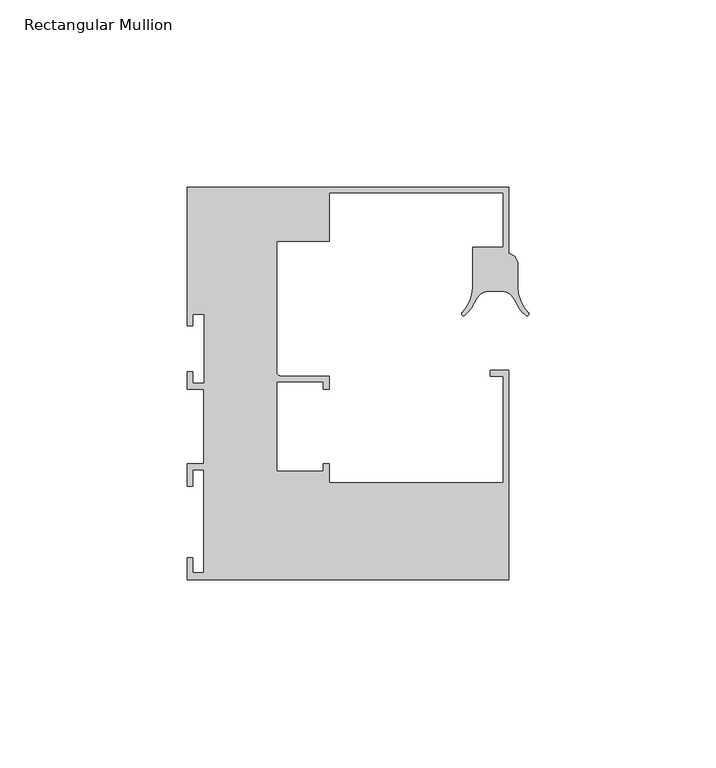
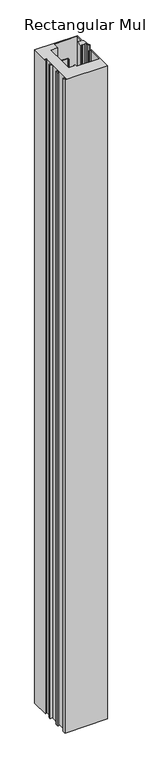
"""IFC4 building model written with IfcOpenShell, lengths in millimetres: member geometry, Rectangular Mullion : Danpal_Airpt_End-Mullion_B1."""

from ifc_helpers import new_model, si_unit, point, frame, frame_2d, origin, place, context, project, spatial, polyline, circle_curve, trimmed, segment, composite_curve, outline, extrude, source, transform, mapped, element, save


def rectangular_mullion_5c33d273(model_context):
    return source(origin(), model_context, "Body", "SweptSolid", [
        extrude(outline(composite_curve([segment(polyline([(28.3319078, -44.249979), (28.3319078, -15.7500001), (24.8319078, -15.7500001), (24.8319078, -14.2500001), (29.8319078, -14.2500001), (29.8319078, -70.2500001), (-56.1680922, -70.2500001), (-56.1680922, -64.2500001), (-54.6680922, -64.2500001), (-54.6680922, -68.2500001), (-51.6680922, -68.2500001), (-51.6680922, -40.7500001), (-54.6499985, -40.7500001), (-54.6499985, -45.2500001), (-56.1499985, -45.2500001), (-56.1499985, -39.2500001), (-51.6680922, -39.2500001), (-51.6680922, -19.25), (-56.15, -19.25), (-56.15, -14.65), (-54.65, -14.65), (-54.65, -17.65), (-51.65, -17.65), (-51.65, 0.75), (-54.65, 0.75), (-54.65, -2.25), (-56.15, -2.25), (-56.15, 34.75), (29.8499992, 34.75), (29.8499992, 17.0365625)]), True, "CONTINUOUS"), segment(trimmed(circle_curve(frame_2d((29.1986238, 14.1081309)), 3.0000002), [point((29.8499992, 17.0365625))], [point((32.1986067, 14.1183419))], False, "CARTESIAN"), True, "CONTINUOUS"), segment(polyline([(32.1986067, 14.1183419), (32.1986067, 8.1181379)]), True, "CONTINUOUS"), segment(trimmed(circle_curve(frame_2d((42.198548, 8.1523787)), 10.0), [point((32.1986067, 8.1181379))], [point((35.0108364, 1.1999114))], True, "CARTESIAN"), True, "CONTINUOUS"), segment(trimmed(circle_curve(frame_2d((34.6513305, 0.8521716)), 0.5001675), [point((35.0108364, 1.1999114))], [point((34.3289194, 0.4697862))], False, "CARTESIAN"), True, "CONTINUOUS"), segment(trimmed(circle_curve(frame_2d((40.774981, 8.114934)), 9.9999998), [point((34.3289194, 0.4697862))], [point((31.7608489, 3.785336))], False, "CARTESIAN"), True, "CONTINUOUS"), segment(trimmed(circle_curve(frame_2d((22.7467169, -0.544262)), 9.9999997), [point((31.7608489, 3.785336))], [point((30.5309383, 5.7331494))], True, "CARTESIAN"), True, "CONTINUOUS"), segment(trimmed(circle_curve(frame_2d((28.1956718, 3.8499259)), 3.0), [point((30.5309383, 5.7331494))], [point((28.1956718, 6.8499259))], True, "CARTESIAN"), True, "CONTINUOUS"), segment(polyline([(28.1956718, 6.8499259), (24.1570278, 6.8499259)]), True, "CONTINUOUS"), segment(trimmed(circle_curve(frame_2d((24.1570278, 3.8499259)), 3.0), [point((24.1570278, 6.8499259))], [point((21.8217605, 5.7331484))], True, "CARTESIAN"), True, "CONTINUOUS"), segment(trimmed(circle_curve(frame_2d((29.6059846, -0.5442599)), 10.0), [point((21.8217605, 5.7331484))], [point((20.5918518, 3.7853369))], True, "CARTESIAN"), True, "CONTINUOUS"), segment(trimmed(circle_curve(frame_2d((11.5777192, 8.1149337)), 9.9999997), [point((20.5918518, 3.7853369))], [point((18.026354, 0.4719563))], False, "CARTESIAN"), True, "CONTINUOUS"), segment(trimmed(circle_curve(frame_2d((17.7037094, 0.8543575)), 0.5003301), [point((18.026354, 0.4719563))], [point((17.3439806, 1.2021009))], False, "CARTESIAN"), True, "CONTINUOUS"), segment(trimmed(circle_curve(frame_2d((10.1541518, 8.1523787)), 10.0), [point((17.3439806, 1.2021009))], [point((20.1500023, 7.8643287))], True, "CARTESIAN"), True, "CONTINUOUS"), segment(polyline([(20.1500023, 7.8643287), (20.1500023, 18.6499969), (28.3500023, 18.6499969), (28.3500023, 33.2499969), (-18.1500023, 33.2499969), (-18.1500023, 20.2499969), (-32.2500023, 20.2499969), (-32.2500023, -14.698377)]), True, "CONTINUOUS"), segment(trimmed(circle_curve(frame_2d((-31.1983762, -14.698377)), 1.0516261), [point((-32.2500023, -14.698377))], [point((-31.1983762, -15.7500031))], True, "CARTESIAN"), True, "CONTINUOUS"), segment(polyline([(-31.1983762, -15.7500031), (-18.1500023, -15.7500031), (-18.1500023, -19.2500031), (-19.7500023, -19.2500031), (-19.7500023, -17.2500031), (-32.2500023, -17.2500031), (-32.2500023, -41.2500001), (-19.7680922, -41.2500001), (-19.7680922, -39.2500001), (-18.1680922, -39.2500001), (-18.1680922, -44.249979), (28.3319078, -44.249979)]), True, "CONTINUOUS")], self_intersect=False)), frame((0.0, 0.0, -1387.6638156), z_axis=(0.0, 0.0, 1.0), x_axis=(1.0, 0.0, 0.0)), (0.0, 0.0, 1.0), 1387.6638156),
    ])


if __name__ == "__main__":
    model = new_model("IFC4")
    model_context = context("Model", 3, world=origin())
    ifc_project = project(units=[si_unit("LENGTHUNIT", "METRE", prefix="MILLI")], contexts=[model_context])
    site = spatial("IfcSite", under=ifc_project)
    building = spatial("IfcBuilding", under=site)
    placement = place(None, origin())
    rectangular_mullion_shape = rectangular_mullion_5c33d273(model_context)
    element("IfcMember", 1, ObjectType="Rectangular Mullion : Danpal_Airpt_End-Mullion_B1", at=placement, inside=building, context=model_context, shape_type="MappedRepresentation", body=[
        mapped(rectangular_mullion_shape, transform((0.0, 0.0, 0.0), x_axis=(1.0, 0.0, 0.0), y_axis=(0.0, 1.0, 0.0), z_axis=(0.0, 0.0, 1.0))),
    ])
    save(model, "model.ifc")
